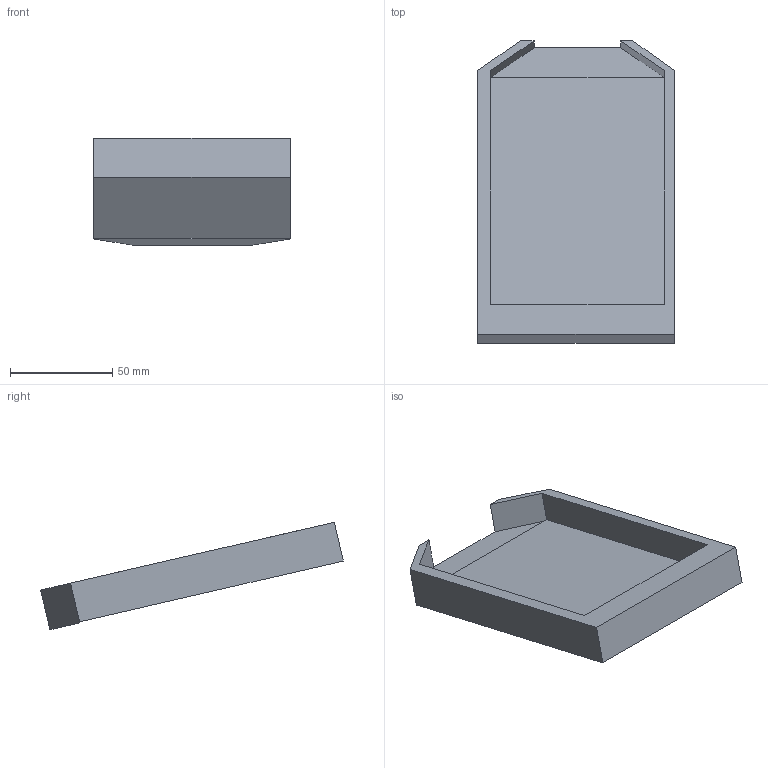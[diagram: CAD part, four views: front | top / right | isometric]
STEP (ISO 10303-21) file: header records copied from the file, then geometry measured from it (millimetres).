
FILE_DESCRIPTION(/* description */ ('STEP AP242 Edition 2','CAx-IF Rec.Pracs.---Representation and Presentation of Product Manufacturing Information (PMI)---4.0---2014-10-13','CAx-IF Rec.Pracs.---3D Tessellated Geometry---0.4---2014-09-14','2;1','CAx-IF Rec.Pracs.---User Defined Attributes---1.5---2016-08-15'),/* implementation_level */ '2;1');
FILE_NAME(/* name */ 'Part Studio 1 - Part 10',/* time_stamp */ '2026-10-19T00:09:51Z',/* author */ (''),/* organization */ (''),/* preprocessor_version */ 'ST-DEVELOPER v20',/* originating_system */ 'ONSHAPE BY PTC INC, 1.222',/* authorisation */ ' ');
FILE_SCHEMA (('AP242_MANAGED_MODEL_BASED_3D_ENGINEERING_MIM_LF { 1 0 10303 442 3 1 4 }'));
Length unit declared in the file: metre
Products named in the file (1): Part 10
Bounding box: 96.44 x 148.24 x 52.7 mm (x, y, z)
Volume: 112841.2 mm3; surface area: 41910.8 mm2
Topology: 1 solids, 1 shells, 18 faces, 44 edges, 28 vertices
Faces by surface type: plane 18
Entity records: 538 total; most frequent: CARTESIAN_POINT 91, ORIENTED_EDGE 88, DIRECTION 82, EDGE_CURVE 44, LINE 44, VECTOR 44, VERTEX_POINT 28, AXIS2_PLACEMENT_3D 19
